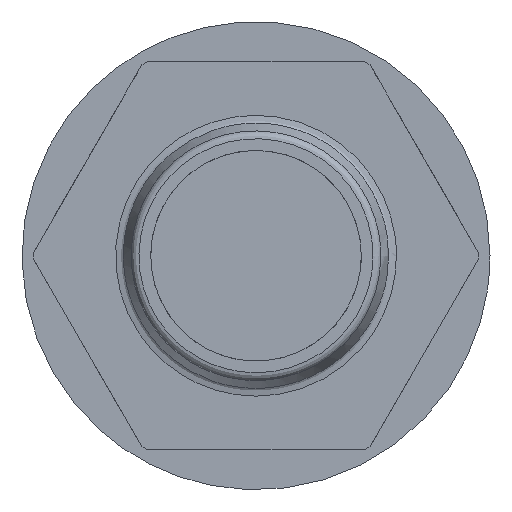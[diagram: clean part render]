
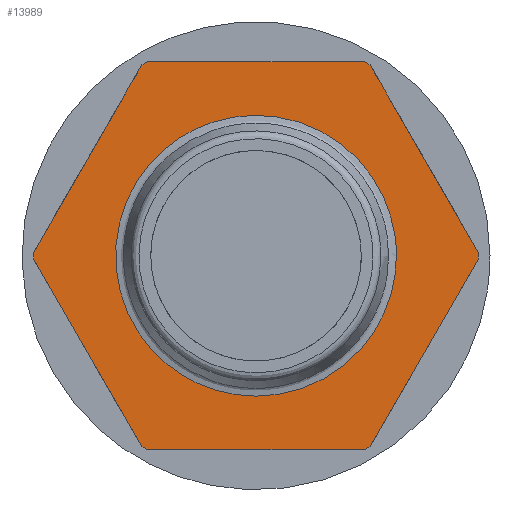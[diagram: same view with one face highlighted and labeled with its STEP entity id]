
A CAD part, front view. The second image highlights one B-rep face of the part: STEP entity #13989.
In plain terms, the highlighted free-form (B-spline) face has degree [1, 1] with [2, 2] control points.
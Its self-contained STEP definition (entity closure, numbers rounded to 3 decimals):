
#11110=CARTESIAN_POINT('V808',(18.0,-16.0,0.0));
#11111=VERTEX_POINT('V808',#11110);
#11127=CARTESIAN_POINT('E1271',(18.0,-16.0,0.0));
#11128=CARTESIAN_POINT('E1271',(18.0,-16.0,-31.177));
#11129=CARTESIAN_POINT('E1271',(-9.0,-16.0,-15.588));
#11130=CARTESIAN_POINT('E1271',(-36.0,-16.0,0.));
#11131=CARTESIAN_POINT('E1271',(-9.0,-16.0,15.588));
#11132=CARTESIAN_POINT('E1271',(18.0,-16.0,31.177));
#11133=CARTESIAN_POINT('E1271',(18.0,-16.0,0.0));
#11141=(BOUNDED_CURVE()B_SPLINE_CURVE(2,(#11127,#11128,#11129,
   #11130,#11131,#11132,#11133),.CIRCULAR_ARC.,.T.,.U.)
   B_SPLINE_CURVE_WITH_KNOTS((3,2,2,3),(0.0,14.364,
   28.727,43.091),.UNSPECIFIED.)CURVE()
   GEOMETRIC_REPRESENTATION_ITEM()RATIONAL_B_SPLINE_CURVE((1.0,
   0.5,1.0,0.5,1.0,0.5,1.0)
   )REPRESENTATION_ITEM('E1271'));
#11142=EDGE_CURVE('E1271',#11111,#11111,#11141,.T.);
#12647=CARTESIAN_POINT('V801',(-14.628,-16.0,
   24.459));
#12648=VERTEX_POINT('V801',#12647);
#12654=CARTESIAN_POINT('V802',(-13.868,-16.0,
   24.898));
#12655=VERTEX_POINT('V802',#12654);
#12656=CARTESIAN_POINT('E1258',(-13.868,-16.0,
   24.898));
#12657=CARTESIAN_POINT('E1258',(-14.06,-16.0,
   24.791));
#12658=CARTESIAN_POINT('E1258',(-14.25,-16.0,
   24.682));
#12659=CARTESIAN_POINT('E1258',(-14.44,-16.0,
   24.572));
#12660=CARTESIAN_POINT('E1258',(-14.628,-16.0,
   24.459));
#12668=(BOUNDED_CURVE()B_SPLINE_CURVE(2,(#12656,#12657,#12658,
   #12659,#12660),.CIRCULAR_ARC.,.F.,.U.)B_SPLINE_CURVE_WITH_KNOTS(
   (3,2,3),(0.33,0.333,0.336),
   .UNSPECIFIED.)CURVE()GEOMETRIC_REPRESENTATION_ITEM()
   RATIONAL_B_SPLINE_CURVE((0.991,0.996,
   1.0,0.996,0.991))REPRESENTATION_ITEM(
   'E1258'));
#12669=EDGE_CURVE('E1258',#12655,#12648,#12668,.T.);
#12703=CARTESIAN_POINT('V797',(13.868,-16.0,
   24.898));
#12704=VERTEX_POINT('V797',#12703);
#12716=CARTESIAN_POINT('E1269',(13.868,-16.0,
   24.898));
#12717=CARTESIAN_POINT('E1269',(-13.868,-16.0,
   24.898));
#12718=B_SPLINE_CURVE_WITH_KNOTS('E1269',1,(#12716,#12717),
   .POLYLINE_FORM.,.F.,.U.,(2,2),(0.0,2.134),
   .UNSPECIFIED.);
#12719=EDGE_CURVE('E1269',#12704,#12655,#12718,.T.);
#12747=CARTESIAN_POINT('V798',(14.628,-16.0,
   24.459));
#12748=VERTEX_POINT('V798',#12747);
#12749=CARTESIAN_POINT('E1254',(14.628,-16.0,
   24.459));
#12750=CARTESIAN_POINT('E1254',(14.252,-16.0,
   24.685));
#12751=CARTESIAN_POINT('E1254',(13.868,-16.0,
   24.898));
#12759=(BOUNDED_CURVE()B_SPLINE_CURVE(2,(#12749,#12750,#12751),
   .CIRCULAR_ARC.,.F.,.U.)B_SPLINE_CURVE_WITH_KNOTS((3,3),(
   0.164,0.169),.UNSPECIFIED.)CURVE()
   GEOMETRIC_REPRESENTATION_ITEM()RATIONAL_B_SPLINE_CURVE((
   0.75,0.75,0.75))
   REPRESENTATION_ITEM('E1254'));
#12760=EDGE_CURVE('E1254',#12748,#12704,#12759,.T.);
#13053=CARTESIAN_POINT('V795',(28.497,-16.0,
   0.439));
#13054=VERTEX_POINT('V795',#13053);
#13055=CARTESIAN_POINT('E1268',(28.497,-16.0,
   0.439));
#13056=CARTESIAN_POINT('E1268',(14.628,-16.0,
   24.459));
#13057=B_SPLINE_CURVE_WITH_KNOTS('E1268',1,(#13055,#13056),
   .POLYLINE_FORM.,.F.,.U.,(2,2),(0.0,2.134),
   .UNSPECIFIED.);
#13058=EDGE_CURVE('E1268',#13054,#12748,#13057,.T.);
#13141=CARTESIAN_POINT('V793',(28.5,-16.0,0.0));
#13142=VERTEX_POINT('V793',#13141);
#13143=CARTESIAN_POINT('E1251',(28.5,-16.0,0.0));
#13144=CARTESIAN_POINT('E1251',(28.5,-16.0,
   0.219));
#13145=CARTESIAN_POINT('E1251',(28.497,-16.0,
   0.439));
#13153=(BOUNDED_CURVE()B_SPLINE_CURVE(2,(#13143,#13144,#13145),
   .CIRCULAR_ARC.,.F.,.U.)B_SPLINE_CURVE_WITH_KNOTS((3,3),(0.0,
   0.003),.UNSPECIFIED.)CURVE()
   GEOMETRIC_REPRESENTATION_ITEM()RATIONAL_B_SPLINE_CURVE((1.0,
   0.996,0.991))REPRESENTATION_ITEM('E1251')
   );
#13154=EDGE_CURVE('E1251',#13142,#13054,#13153,.T.);
#13201=CARTESIAN_POINT('V790',(28.497,-16.0,
   -0.439));
#13202=VERTEX_POINT('V790',#13201);
#13224=CARTESIAN_POINT('E1249',(28.497,-16.0,
   -0.439));
#13225=CARTESIAN_POINT('E1249',(28.5,-16.0,
   -0.219));
#13226=CARTESIAN_POINT('E1249',(28.5,-16.0,0.0));
#13234=(BOUNDED_CURVE()B_SPLINE_CURVE(2,(#13224,#13225,#13226),
   .CIRCULAR_ARC.,.F.,.U.)B_SPLINE_CURVE_WITH_KNOTS((3,3),(
   0.997,1.0),.UNSPECIFIED.)CURVE()
   GEOMETRIC_REPRESENTATION_ITEM()RATIONAL_B_SPLINE_CURVE((
   0.991,0.996,1.0))REPRESENTATION_ITEM(
   'E1249'));
#13235=EDGE_CURVE('E1249',#13202,#13142,#13234,.T.);
#13812=CARTESIAN_POINT('V787',(14.628,-16.0,
   -24.459));
#13813=VERTEX_POINT('V787',#13812);
#13814=CARTESIAN_POINT('E1267',(14.628,-16.0,
   -24.459));
#13815=CARTESIAN_POINT('E1267',(28.497,-16.0,
   -0.439));
#13816=B_SPLINE_CURVE_WITH_KNOTS('E1267',1,(#13814,#13815),
   .POLYLINE_FORM.,.F.,.U.,(2,2),(0.0,2.134),
   .UNSPECIFIED.);
#13817=EDGE_CURVE('E1267',#13813,#13202,#13816,.T.);
#13882=CARTESIAN_POINT('V788',(13.868,-16.0,
   -24.898));
#13883=VERTEX_POINT('V788',#13882);
#13884=CARTESIAN_POINT('E1243',(13.868,-16.0,
   -24.898));
#13885=CARTESIAN_POINT('E1243',(14.252,-16.0,
   -24.685));
#13886=CARTESIAN_POINT('E1243',(14.628,-16.0,
   -24.459));
#13894=(BOUNDED_CURVE()B_SPLINE_CURVE(2,(#13884,#13885,#13886),
   .CIRCULAR_ARC.,.F.,.U.)B_SPLINE_CURVE_WITH_KNOTS((3,3),(
   0.831,0.836),.UNSPECIFIED.)CURVE()
   GEOMETRIC_REPRESENTATION_ITEM()RATIONAL_B_SPLINE_CURVE((
   0.75,0.75,0.75))
   REPRESENTATION_ITEM('E1243'));
#13895=EDGE_CURVE('E1243',#13883,#13813,#13894,.T.);
#13920=CARTESIAN_POINT('F488',(31.35,-16.0,
   -31.35));
#13921=CARTESIAN_POINT('F488',(31.35,-16.0,
   31.35));
#13922=CARTESIAN_POINT('F488',(-31.35,-16.0,
   -31.35));
#13923=CARTESIAN_POINT('F488',(-31.35,-16.0,
   31.35));
#13924=QUASI_UNIFORM_SURFACE('F488',1,1,((#13920,#13922),(#13921,
   #13923)),.PLANE_SURF.,.F.,.F.,.U.);
#13925=CARTESIAN_POINT('V807',(-28.497,-16.0,
   -0.439));
#13926=VERTEX_POINT('V807',#13925);
#13927=CARTESIAN_POINT('V784',(-14.628,-16.0,
   -24.459));
#13928=VERTEX_POINT('V784',#13927);
#13929=CARTESIAN_POINT('E1265',(-28.497,-16.0,
   -0.439));
#13930=CARTESIAN_POINT('E1265',(-14.628,-16.0,
   -24.459));
#13931=B_SPLINE_CURVE_WITH_KNOTS('E1265',1,(#13929,#13930),
   .POLYLINE_FORM.,.F.,.U.,(2,2),(0.0,2.134),
   .UNSPECIFIED.);
#13932=EDGE_CURVE('E1265',#13926,#13928,#13931,.T.);
#13933=ORIENTED_EDGE('E1265',*,*,#13932,.T.);
#13934=CARTESIAN_POINT('V783',(-13.868,-16.0,
   -24.898));
#13935=VERTEX_POINT('V783',#13934);
#13936=CARTESIAN_POINT('E1239',(-14.628,-16.0,
   -24.459));
#13937=CARTESIAN_POINT('E1239',(-14.44,-16.0,
   -24.572));
#13938=CARTESIAN_POINT('E1239',(-14.25,-16.0,
   -24.682));
#13939=CARTESIAN_POINT('E1239',(-14.06,-16.0,
   -24.791));
#13940=CARTESIAN_POINT('E1239',(-13.868,-16.0,
   -24.898));
#13948=(BOUNDED_CURVE()B_SPLINE_CURVE(2,(#13936,#13937,#13938,
   #13939,#13940),.CIRCULAR_ARC.,.F.,.U.)B_SPLINE_CURVE_WITH_KNOTS(
   (3,2,3),(0.664,0.667,0.67),
   .UNSPECIFIED.)CURVE()GEOMETRIC_REPRESENTATION_ITEM()
   RATIONAL_B_SPLINE_CURVE((0.991,0.996,
   1.0,0.996,0.991))REPRESENTATION_ITEM(
   'E1239'));
#13949=EDGE_CURVE('E1239',#13928,#13935,#13948,.T.);
#13950=ORIENTED_EDGE('E1239',*,*,#13949,.T.);
#13951=CARTESIAN_POINT('E1266',(-13.868,-16.0,
   -24.898));
#13952=CARTESIAN_POINT('E1266',(13.868,-16.0,
   -24.898));
#13953=B_SPLINE_CURVE_WITH_KNOTS('E1266',1,(#13951,#13952),
   .POLYLINE_FORM.,.F.,.U.,(2,2),(0.0,2.134),
   .UNSPECIFIED.);
#13954=EDGE_CURVE('E1266',#13935,#13883,#13953,.T.);
#13955=ORIENTED_EDGE('E1266',*,*,#13954,.T.);
#13956=ORIENTED_EDGE('E1243',*,*,#13895,.T.);
#13957=ORIENTED_EDGE('E1267',*,*,#13817,.T.);
#13958=ORIENTED_EDGE('F483',*,*,#13235,.T.);
#13959=ORIENTED_EDGE('E1251',*,*,#13154,.T.);
#13960=ORIENTED_EDGE('E1268',*,*,#13058,.T.);
#13961=ORIENTED_EDGE('E1254',*,*,#12760,.T.);
#13962=ORIENTED_EDGE('F490',*,*,#12719,.T.);
#13963=ORIENTED_EDGE('E1258',*,*,#12669,.T.);
#13964=CARTESIAN_POINT('V804',(-28.497,-16.0,
   0.439));
#13965=VERTEX_POINT('V804',#13964);
#13966=CARTESIAN_POINT('E1270',(-14.628,-16.0,
   24.459));
#13967=CARTESIAN_POINT('E1270',(-28.497,-16.0,
   0.439));
#13968=B_SPLINE_CURVE_WITH_KNOTS('E1270',1,(#13966,#13967),
   .POLYLINE_FORM.,.F.,.U.,(2,2),(0.0,2.134),
   .UNSPECIFIED.);
#13969=EDGE_CURVE('E1270',#12648,#13965,#13968,.T.);
#13970=ORIENTED_EDGE('E1270',*,*,#13969,.T.);
#13971=CARTESIAN_POINT('E1264',(-28.497,-16.0,
   0.439));
#13972=CARTESIAN_POINT('E1264',(-28.503,-16.0,
   0.));
#13973=CARTESIAN_POINT('E1264',(-28.497,-16.0,
   -0.439));
#13981=(BOUNDED_CURVE()B_SPLINE_CURVE(2,(#13971,#13972,#13973),
   .CIRCULAR_ARC.,.F.,.U.)B_SPLINE_CURVE_WITH_KNOTS((3,3),(
   0.498,0.502),.UNSPECIFIED.)CURVE()
   GEOMETRIC_REPRESENTATION_ITEM()RATIONAL_B_SPLINE_CURVE((
   0.75,0.75,0.75))
   REPRESENTATION_ITEM('E1264'));
#13982=EDGE_CURVE('E1264',#13965,#13926,#13981,.T.);
#13983=ORIENTED_EDGE('E1264',*,*,#13982,.T.);
#13984=EDGE_LOOP('F488',(#13933,#13950,#13955,#13956,#13957,#13958,
   #13959,#13960,#13961,#13962,#13963,#13970,#13983));
#13985=FACE_OUTER_BOUND('F488',#13984,.T.);
#13986=ORIENTED_EDGE('F496',*,*,#11142,.T.);
#13987=EDGE_LOOP('F488',(#13986));
#13988=FACE_BOUND('F488',#13987,.T.);
#13989=ADVANCED_FACE('F488',(#13985,#13988),#13924,.T.);
